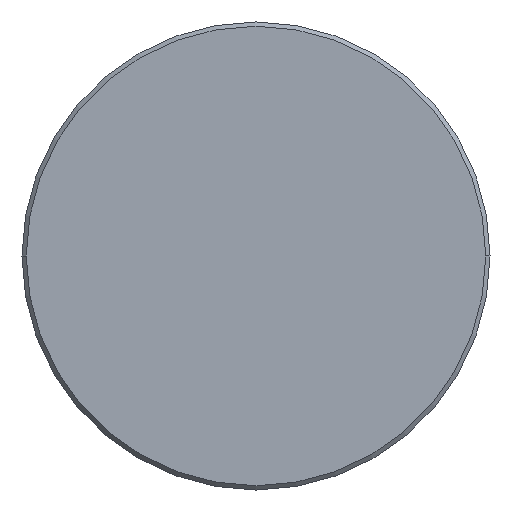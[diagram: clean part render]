
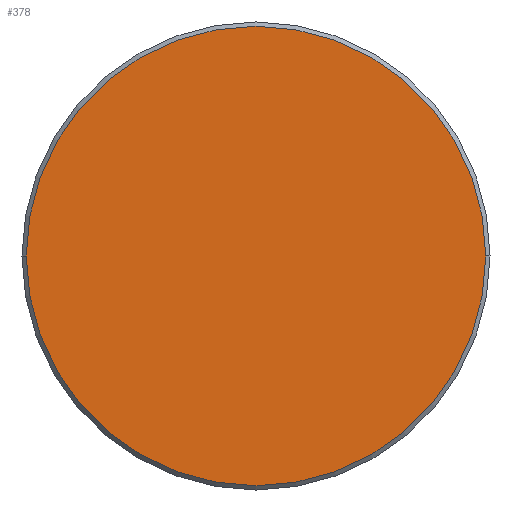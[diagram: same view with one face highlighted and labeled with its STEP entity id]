
A CAD part, left-side view. The second image highlights one B-rep face of the part: STEP entity #378.
In plain terms, the highlighted planar face has unit normal (-1, 0, 0).
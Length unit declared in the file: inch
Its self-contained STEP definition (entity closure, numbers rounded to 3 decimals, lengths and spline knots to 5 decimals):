
#9 = AXIS2_PLACEMENT_3D ( 'NONE', #373, #34, #174 ) ;
#20 = EDGE_CURVE ( 'NONE', #264, #163, #113, .T. ) ;
#34 = DIRECTION ( 'NONE',  ( -1., 0., 0. ) ) ;
#45 = ORIENTED_EDGE ( 'NONE', *, *, #20, .T. ) ;
#62 = DIRECTION ( 'NONE',  ( 0., -1., 0. ) ) ;
#82 = AXIS2_PLACEMENT_3D ( 'NONE', #188, #218, #158 ) ;
#92 = FACE_OUTER_BOUND ( 'NONE', #130, .T. ) ;
#94 = EDGE_CURVE ( 'NONE', #163, #264, #368, .T. ) ;
#110 = PLANE ( 'NONE',  #9 ) ;
#113 = CIRCLE ( 'NONE', #82, 0.21475 ) ;
#130 = EDGE_LOOP ( 'NONE', ( #45, #377 ) ) ;
#150 = CARTESIAN_POINT ( 'NONE',  ( 0., -0.21475, 0. ) ) ;
#158 = DIRECTION ( 'NONE',  ( 0., -1., 0. ) ) ;
#163 = VERTEX_POINT ( 'NONE', #150 ) ;
#174 = DIRECTION ( 'NONE',  ( 0., -1., 0. ) ) ;
#188 = CARTESIAN_POINT ( 'NONE',  ( 0., 0., 0. ) ) ;
#218 = DIRECTION ( 'NONE',  ( -1., 0., 0. ) ) ;
#237 = CARTESIAN_POINT ( 'NONE',  ( 0., 0., 0. ) ) ;
#264 = VERTEX_POINT ( 'NONE', #313 ) ;
#313 = CARTESIAN_POINT ( 'NONE',  ( 0., 0.21475, 0. ) ) ;
#357 = AXIS2_PLACEMENT_3D ( 'NONE', #237, #358, #62 ) ;
#358 = DIRECTION ( 'NONE',  ( -1., 0., 0. ) ) ;
#368 = CIRCLE ( 'NONE', #357, 0.21475 ) ;
#373 = CARTESIAN_POINT ( 'NONE',  ( 0., 0., 0. ) ) ;
#377 = ORIENTED_EDGE ( 'NONE', *, *, #94, .T. ) ;
#378 = ADVANCED_FACE ( 'NONE', ( #92 ), #110, .T. ) ;
